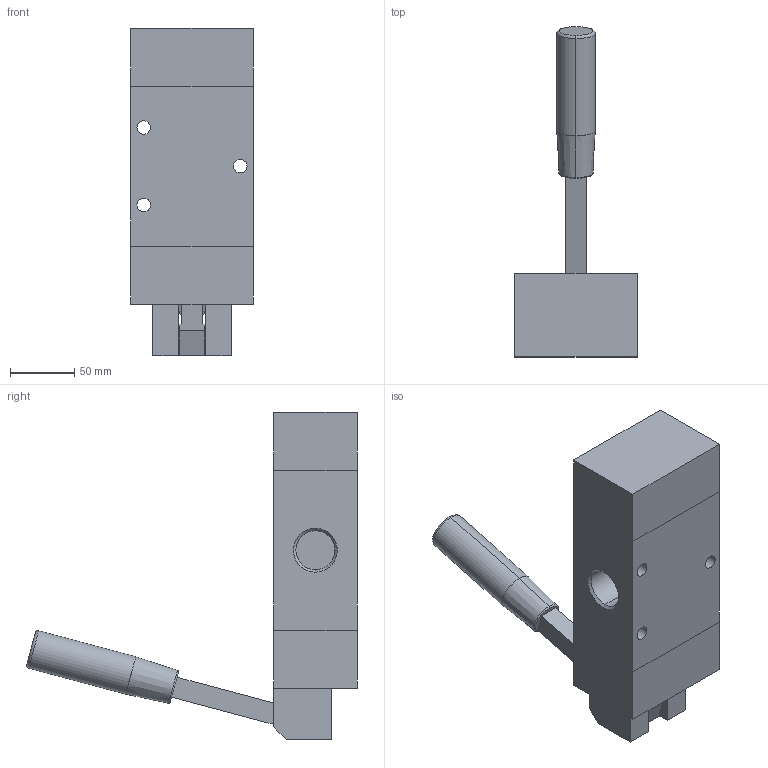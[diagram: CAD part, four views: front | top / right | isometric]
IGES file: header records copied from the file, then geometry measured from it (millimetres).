
Global section: file name: No Iges File Name specified; native system: AutoDesk Inventor R11.0; preprocessor: AutoDesk Inventor Iges Exporter R11.0; author: No Author specified; organization: No Organization specified; date: 20061219.113205; units: millimetre
Bounding box: 95 x 256.51 x 254 mm (x, y, z)
Volume: 1432276.6 mm3; surface area: 124106.8 mm2
Topology: 2 solids, 2 shells, 79 faces, 178 edges, 114 vertices
Faces by surface type: plane 42, bspline 15, revolution 12, torus 6, cone 2, cylinder 2
